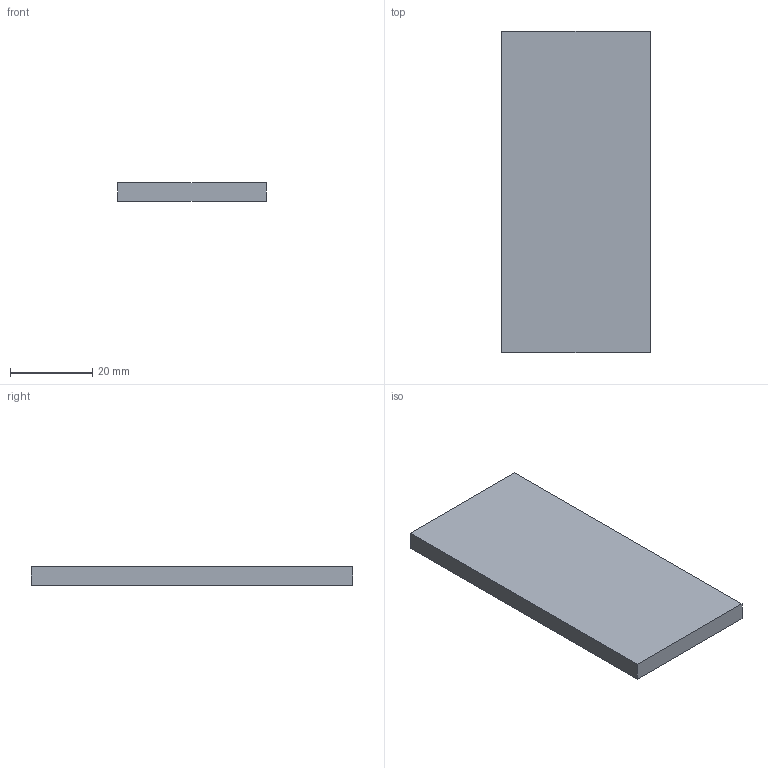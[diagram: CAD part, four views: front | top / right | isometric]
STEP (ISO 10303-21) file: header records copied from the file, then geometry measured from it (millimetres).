
FILE_DESCRIPTION(('FreeCAD Model'),'2;1');
FILE_NAME('Open CASCADE Shape Model','2026-10-16T12:29:57',('FreeCAD'),( 'FreeCAD'),'Open CASCADE STEP processor 7.8','FreeCAD','Unknown');
FILE_SCHEMA(('AUTOMOTIVE_DESIGN { 1 0 10303 214 1 1 1 1 }'));
Length unit declared in the file: millimetre
Products named in the file (1): Open CASCADE STEP translator 7.8 1
Bounding box: 36 x 78 x 4.45 mm (x, y, z)
Volume: 12495.6 mm3; surface area: 6630.6 mm2
Topology: 1 solids, 1 shells, 6 faces, 12 edges, 8 vertices
Faces by surface type: plane 6
Entity records: 166 total; most frequent: CARTESIAN_POINT 27, DIRECTION 26, ORIENTED_EDGE 24, EDGE_CURVE 12, LINE 12, VECTOR 12, VERTEX_POINT 8, AXIS2_PLACEMENT_3D 7
